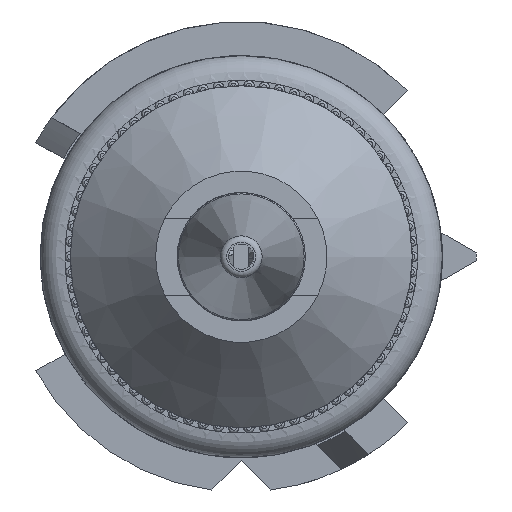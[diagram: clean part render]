
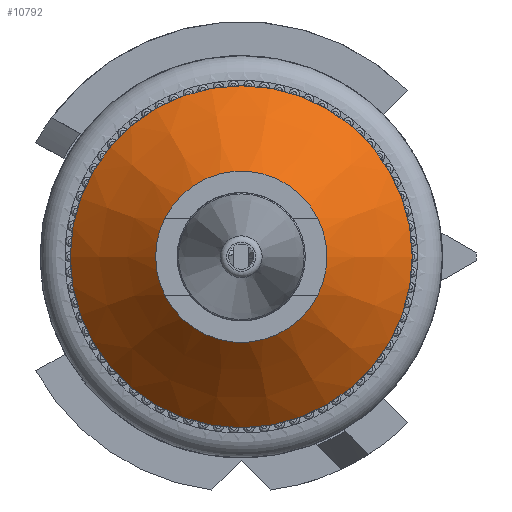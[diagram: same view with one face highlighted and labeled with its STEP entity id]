
A CAD part, left-side view. The second image highlights one B-rep face of the part: STEP entity #10792.
In plain terms, the highlighted conical face has half-angle 44.975 degrees and reference radius 5.103 mm.
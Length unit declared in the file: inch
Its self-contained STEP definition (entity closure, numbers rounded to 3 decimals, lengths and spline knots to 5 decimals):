
#167=FACE_BOUND('',#2470,.T.);
#183=CONICAL_SURFACE('',#11968,0.20091,44.975);
#750=CIRCLE('',#11901,0.13409);
#753=CIRCLE('',#11910,0.13409);
#756=CIRCLE('',#11915,0.13409);
#757=CIRCLE('',#11917,0.13409);
#778=CIRCLE('',#11967,0.26772);
#1797=FACE_OUTER_BOUND('',#2469,.T.);
#2469=EDGE_LOOP('',(#9168,#9169,#9170,#9171));
#2470=EDGE_LOOP('',(#9172));
#4722=VERTEX_POINT('',#21926);
#4723=VERTEX_POINT('',#21928);
#4731=VERTEX_POINT('',#21951);
#4734=VERTEX_POINT('',#21958);
#4760=VERTEX_POINT('',#22068);
#6169=EDGE_CURVE('',#4722,#4723,#750,.T.);
#6187=EDGE_CURVE('',#4731,#4734,#753,.T.);
#6190=EDGE_CURVE('',#4734,#4722,#756,.T.);
#6191=EDGE_CURVE('',#4723,#4731,#757,.T.);
#6234=EDGE_CURVE('',#4760,#4760,#778,.T.);
#9168=ORIENTED_EDGE('',*,*,#6187,.F.);
#9169=ORIENTED_EDGE('',*,*,#6191,.F.);
#9170=ORIENTED_EDGE('',*,*,#6169,.F.);
#9171=ORIENTED_EDGE('',*,*,#6190,.F.);
#9172=ORIENTED_EDGE('',*,*,#6234,.T.);
#10792=ADVANCED_FACE('',(#1797,#167),#183,.T.);
#11901=AXIS2_PLACEMENT_3D('',#21929,#14769,#14770);
#11910=AXIS2_PLACEMENT_3D('',#21965,#14802,#14803);
#11915=AXIS2_PLACEMENT_3D('',#21970,#14812,#14813);
#11917=AXIS2_PLACEMENT_3D('',#21972,#14816,#14817);
#11967=AXIS2_PLACEMENT_3D('',#22069,#14938,#14939);
#11968=AXIS2_PLACEMENT_3D('',#22070,#14940,#14941);
#14769=DIRECTION('center_axis',(-1.,0.,0.));
#14770=DIRECTION('ref_axis',(0.,-1.,0.));
#14802=DIRECTION('center_axis',(-1.,0.,0.));
#14803=DIRECTION('ref_axis',(0.,-1.,0.));
#14812=DIRECTION('center_axis',(-1.,0.,0.));
#14813=DIRECTION('ref_axis',(0.,-1.,0.));
#14816=DIRECTION('center_axis',(-1.,0.,0.));
#14817=DIRECTION('ref_axis',(0.,-1.,0.));
#14938=DIRECTION('center_axis',(-1.,0.,0.));
#14939=DIRECTION('ref_axis',(0.,-1.,0.));
#14940=DIRECTION('center_axis',(1.,0.,0.));
#14941=DIRECTION('ref_axis',(0.,-1.,0.));
#21926=CARTESIAN_POINT('',(-0.42523,0.11992,0.06));
#21928=CARTESIAN_POINT('',(-0.42523,0.11992,-0.06));
#21929=CARTESIAN_POINT('Origin',(-0.42523,0.,0.));
#21951=CARTESIAN_POINT('',(-0.42523,-0.11992,-0.06));
#21958=CARTESIAN_POINT('',(-0.42523,-0.11992,0.06));
#21965=CARTESIAN_POINT('Origin',(-0.42523,0.,0.));
#21970=CARTESIAN_POINT('Origin',(-0.42523,0.,0.));
#21972=CARTESIAN_POINT('Origin',(-0.42523,0.,0.));
#22068=CARTESIAN_POINT('',(-0.29148,-0.26772,0.));
#22069=CARTESIAN_POINT('Origin',(-0.29148,0.,0.));
#22070=CARTESIAN_POINT('Origin',(-0.35835,0.,0.));
